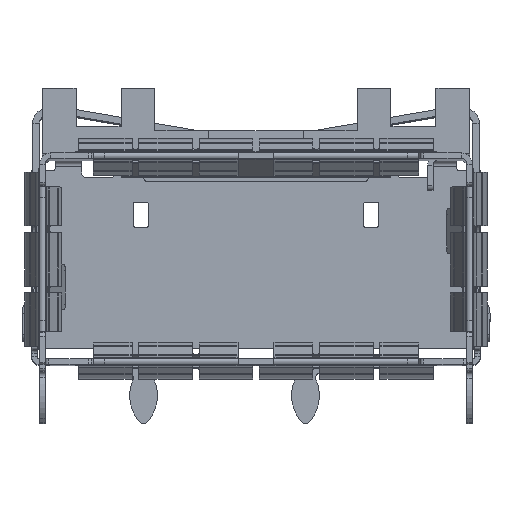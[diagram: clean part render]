
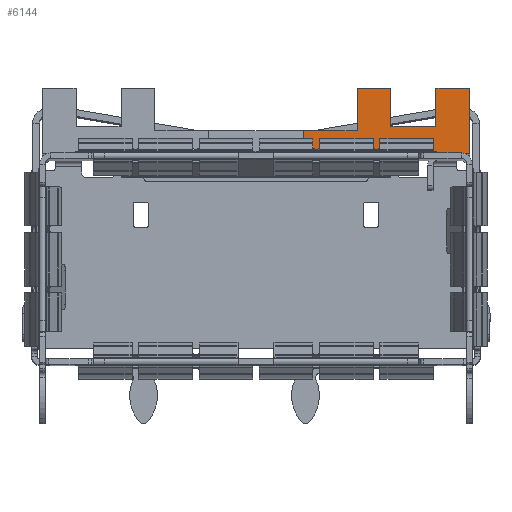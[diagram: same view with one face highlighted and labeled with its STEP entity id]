
A CAD part, top view. The second image highlights one B-rep face of the part: STEP entity #6144.
In plain terms, the highlighted planar face has unit normal (0, 0, 1).
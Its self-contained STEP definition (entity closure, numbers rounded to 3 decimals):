
#6144 = ADVANCED_FACE ( 'NONE', ( #12438 ), #15597, .F. ) ;
#12438 = FACE_OUTER_BOUND ( 'NONE', #38052, .T. ) ;
#13407 = AXIS2_PLACEMENT_3D ( 'NONE', #15609, #15630, #15610 ) ;
#15597 = PLANE ( 'NONE',  #13407 ) ;
#15609 = CARTESIAN_POINT ( 'NONE',  ( 9.5, 1., 0. ) ) ;
#15610 = DIRECTION ( 'NONE',  ( -1., 0., 0. ) ) ;
#15630 = DIRECTION ( 'NONE',  ( 0., 0., -1. ) ) ;
#16854 = VERTEX_POINT ( 'NONE', #29594 ) ;
#16865 = VERTEX_POINT ( 'NONE', #29627 ) ;
#16874 = VERTEX_POINT ( 'NONE', #29731 ) ;
#22136 = EDGE_CURVE ( 'NONE', #28189, #16865, #45407, .T. ) ;
#22143 = EDGE_CURVE ( 'NONE', #28039, #28105, #45443, .T. ) ;
#22163 = EDGE_CURVE ( 'NONE', #28039, #16854, #45452, .T. ) ;
#22167 = EDGE_CURVE ( 'NONE', #16865, #28090, #45507, .T. ) ;
#22172 = EDGE_CURVE ( 'NONE', #16854, #28213, #45578, .T. ) ;
#22180 = EDGE_CURVE ( 'NONE', #16874, #28213, #45633, .T. ) ;
#22188 = EDGE_CURVE ( 'NONE', #28090, #16874, #45732, .T. ) ;
#22192 = EDGE_CURVE ( 'NONE', #28216, #28189, #45634, .T. ) ;
#22203 = EDGE_CURVE ( 'NONE', #28147, #28105, #45657, .T. ) ;
#22229 = EDGE_CURVE ( 'NONE', #28147, #28216, #45804, .T. ) ;
#28039 = VERTEX_POINT ( 'NONE', #65154 ) ;
#28090 = VERTEX_POINT ( 'NONE', #65134 ) ;
#28105 = VERTEX_POINT ( 'NONE', #65148 ) ;
#28147 = VERTEX_POINT ( 'NONE', #65145 ) ;
#28189 = VERTEX_POINT ( 'NONE', #65164 ) ;
#28213 = VERTEX_POINT ( 'NONE', #65117 ) ;
#28216 = VERTEX_POINT ( 'NONE', #65240 ) ;
#29594 = CARTESIAN_POINT ( 'NONE',  ( 2.1, 1., 0. ) ) ;
#29627 = CARTESIAN_POINT ( 'NONE',  ( 6., 1.2, 0. ) ) ;
#29731 = CARTESIAN_POINT ( 'NONE',  ( 4.5, 2.9, 0. ) ) ;
#32587 = ORIENTED_EDGE ( 'NONE', *, *, #22229, .T. ) ;
#32599 = ORIENTED_EDGE ( 'NONE', *, *, #22167, .T. ) ;
#32615 = ORIENTED_EDGE ( 'NONE', *, *, #22180, .T. ) ;
#32619 = ORIENTED_EDGE ( 'NONE', *, *, #22188, .T. ) ;
#32620 = ORIENTED_EDGE ( 'NONE', *, *, #22163, .F. ) ;
#32628 = ORIENTED_EDGE ( 'NONE', *, *, #22203, .F. ) ;
#32629 = ORIENTED_EDGE ( 'NONE', *, *, #22192, .T. ) ;
#32635 = ORIENTED_EDGE ( 'NONE', *, *, #22172, .F. ) ;
#32641 = ORIENTED_EDGE ( 'NONE', *, *, #22136, .T. ) ;
#32656 = ORIENTED_EDGE ( 'NONE', *, *, #22143, .T. ) ;
#38052 = EDGE_LOOP ( 'NONE', ( #32635, #32620, #32656, #32628, #32587, #32629, #32641, #32599, #32619, #32615 ) ) ;
#45343 = VECTOR ( 'NONE', #48189, 1000. ) ;
#45407 = LINE ( 'NONE', #48186, #45343 ) ;
#45443 = LINE ( 'NONE', #48231, #45446 ) ;
#45446 = VECTOR ( 'NONE', #48283, 1000. ) ;
#45452 = LINE ( 'NONE', #48322, #45482 ) ;
#45455 = VECTOR ( 'NONE', #48330, 1000. ) ;
#45482 = VECTOR ( 'NONE', #48382, 1000. ) ;
#45507 = LINE ( 'NONE', #48386, #45455 ) ;
#45511 = VECTOR ( 'NONE', #48384, 1000. ) ;
#45578 = LINE ( 'NONE', #48310, #45511 ) ;
#45633 = LINE ( 'NONE', #48438, #45674 ) ;
#45634 = LINE ( 'NONE', #48416, #45685 ) ;
#45657 = LINE ( 'NONE', #48502, #45664 ) ;
#45664 = VECTOR ( 'NONE', #48579, 1000. ) ;
#45674 = VECTOR ( 'NONE', #48435, 1000. ) ;
#45685 = VECTOR ( 'NONE', #48440, 1000. ) ;
#45695 = VECTOR ( 'NONE', #48404, 1000. ) ;
#45732 = LINE ( 'NONE', #48422, #45695 ) ;
#45804 = LINE ( 'NONE', #48614, #45867 ) ;
#45867 = VECTOR ( 'NONE', #48615, 1000. ) ;
#48186 = CARTESIAN_POINT ( 'NONE',  ( 8., 1.2, 0. ) ) ;
#48189 = DIRECTION ( 'NONE',  ( -1., 0., 0. ) ) ;
#48231 = CARTESIAN_POINT ( 'NONE',  ( 9.5, 0., 0. ) ) ;
#48283 = DIRECTION ( 'NONE',  ( 1., 0., 0. ) ) ;
#48310 = CARTESIAN_POINT ( 'NONE',  ( 9.5, 1., 0. ) ) ;
#48322 = CARTESIAN_POINT ( 'NONE',  ( 2.1, 0., 0. ) ) ;
#48330 = DIRECTION ( 'NONE',  ( 0., 1., 0. ) ) ;
#48382 = DIRECTION ( 'NONE',  ( 0., 1., 0. ) ) ;
#48384 = DIRECTION ( 'NONE',  ( 1., 0., 0. ) ) ;
#48386 = CARTESIAN_POINT ( 'NONE',  ( 6., 1.2, 0. ) ) ;
#48404 = DIRECTION ( 'NONE',  ( -1., 0., 0. ) ) ;
#48416 = CARTESIAN_POINT ( 'NONE',  ( 8., 2.9, 0. ) ) ;
#48422 = CARTESIAN_POINT ( 'NONE',  ( 6., 2.9, 0. ) ) ;
#48435 = DIRECTION ( 'NONE',  ( 0., -1., 0. ) ) ;
#48438 = CARTESIAN_POINT ( 'NONE',  ( 4.5, 2.9, 0. ) ) ;
#48440 = DIRECTION ( 'NONE',  ( 0., -1., 0. ) ) ;
#48502 = CARTESIAN_POINT ( 'NONE',  ( 9.5, 1., 0. ) ) ;
#48579 = DIRECTION ( 'NONE',  ( 0., -1., 0. ) ) ;
#48614 = CARTESIAN_POINT ( 'NONE',  ( 9.5, 2.9, 0. ) ) ;
#48615 = DIRECTION ( 'NONE',  ( -1., 0., 0. ) ) ;
#65117 = CARTESIAN_POINT ( 'NONE',  ( 4.5, 1., 0. ) ) ;
#65134 = CARTESIAN_POINT ( 'NONE',  ( 6., 2.9, 0. ) ) ;
#65145 = CARTESIAN_POINT ( 'NONE',  ( 9.5, 2.9, 0. ) ) ;
#65148 = CARTESIAN_POINT ( 'NONE',  ( 9.5, 0., 0. ) ) ;
#65154 = CARTESIAN_POINT ( 'NONE',  ( 2.1, 0., 0. ) ) ;
#65164 = CARTESIAN_POINT ( 'NONE',  ( 8., 1.2, 0. ) ) ;
#65240 = CARTESIAN_POINT ( 'NONE',  ( 8., 2.9, 0. ) ) ;
